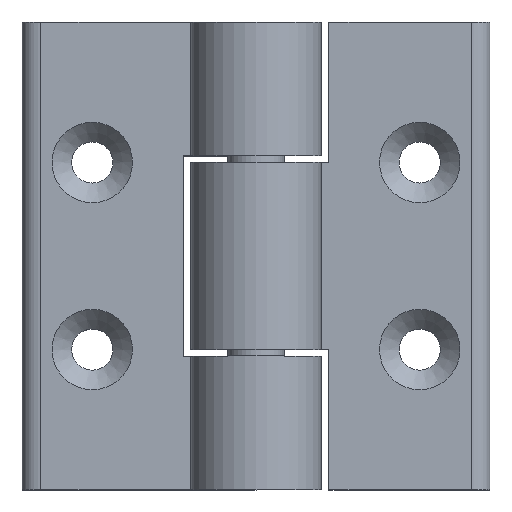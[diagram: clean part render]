
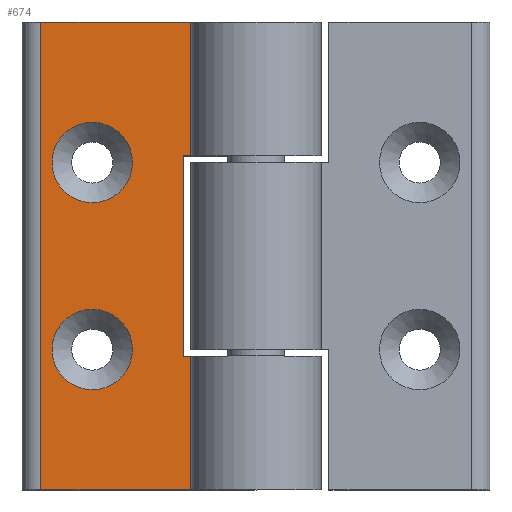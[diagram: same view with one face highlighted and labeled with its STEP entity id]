
A CAD part, top view. The second image highlights one B-rep face of the part: STEP entity #674.
In plain terms, the highlighted planar face has unit normal (0, 0, 1).
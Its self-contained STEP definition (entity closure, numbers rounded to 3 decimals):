
#83=LINE('',#1107,#136);
#84=LINE('',#1110,#137);
#85=LINE('',#1112,#138);
#86=LINE('',#1114,#139);
#87=LINE('',#1116,#140);
#88=LINE('',#1118,#141);
#89=LINE('',#1120,#142);
#90=LINE('',#1122,#143);
#136=VECTOR('',#912,1000.);
#137=VECTOR('',#913,1000.);
#138=VECTOR('',#914,1000.);
#139=VECTOR('',#915,1000.);
#140=VECTOR('',#916,1000.);
#141=VECTOR('',#917,1000.);
#142=VECTOR('',#918,1000.);
#143=VECTOR('',#919,1000.);
#243=ORIENTED_EDGE('',*,*,#369,.T.);
#244=ORIENTED_EDGE('',*,*,#370,.T.);
#245=ORIENTED_EDGE('',*,*,#371,.F.);
#246=ORIENTED_EDGE('',*,*,#372,.F.);
#247=ORIENTED_EDGE('',*,*,#373,.F.);
#248=ORIENTED_EDGE('',*,*,#374,.F.);
#249=ORIENTED_EDGE('',*,*,#375,.F.);
#250=ORIENTED_EDGE('',*,*,#376,.T.);
#251=ORIENTED_EDGE('',*,*,#377,.T.);
#252=ORIENTED_EDGE('',*,*,#378,.F.);
#369=EDGE_CURVE('',#442,#442,#488,.T.);
#370=EDGE_CURVE('',#443,#443,#489,.T.);
#371=EDGE_CURVE('',#444,#445,#83,.T.);
#372=EDGE_CURVE('',#446,#444,#84,.T.);
#373=EDGE_CURVE('',#447,#446,#85,.T.);
#374=EDGE_CURVE('',#448,#447,#86,.T.);
#375=EDGE_CURVE('',#449,#448,#87,.T.);
#376=EDGE_CURVE('',#449,#450,#88,.T.);
#377=EDGE_CURVE('',#450,#451,#89,.T.);
#378=EDGE_CURVE('',#445,#451,#90,.T.);
#442=VERTEX_POINT('',#1104);
#443=VERTEX_POINT('',#1106);
#444=VERTEX_POINT('',#1108);
#445=VERTEX_POINT('',#1109);
#446=VERTEX_POINT('',#1111);
#447=VERTEX_POINT('',#1113);
#448=VERTEX_POINT('',#1115);
#449=VERTEX_POINT('',#1117);
#450=VERTEX_POINT('',#1119);
#451=VERTEX_POINT('',#1121);
#488=CIRCLE('',#769,4.3);
#489=CIRCLE('',#770,4.3);
#536=EDGE_LOOP('',(#243));
#537=EDGE_LOOP('',(#244));
#538=EDGE_LOOP('',(#245,#246,#247,#248,#249,#250,#251,#252));
#601=FACE_BOUND('',#536,.T.);
#602=FACE_BOUND('',#537,.T.);
#603=FACE_BOUND('',#538,.T.);
#644=PLANE('',#768);
#674=ADVANCED_FACE('',(#601,#602,#603),#644,.F.);
#768=AXIS2_PLACEMENT_3D('',#1102,#906,#907);
#769=AXIS2_PLACEMENT_3D('',#1103,#908,#909);
#770=AXIS2_PLACEMENT_3D('',#1105,#910,#911);
#906=DIRECTION('',(0.,0.,-1.));
#907=DIRECTION('',(-1.,0.,0.));
#908=DIRECTION('',(0.,0.,-1.));
#909=DIRECTION('',(-1.,0.,0.));
#910=DIRECTION('',(0.,0.,-1.));
#911=DIRECTION('',(-1.,0.,0.));
#912=DIRECTION('',(1.,0.,0.));
#913=DIRECTION('',(0.,-1.,0.));
#914=DIRECTION('',(-1.,0.,0.));
#915=DIRECTION('',(0.,-1.,0.));
#916=DIRECTION('',(1.,0.,0.));
#917=DIRECTION('',(0.,-1.,0.));
#918=DIRECTION('',(1.,0.,0.));
#919=DIRECTION('',(0.,-1.,0.));
#1102=CARTESIAN_POINT('',(-23.,25.,5.));
#1103=CARTESIAN_POINT('',(-17.5,-10.,5.));
#1104=CARTESIAN_POINT('',(-21.8,-10.,5.));
#1105=CARTESIAN_POINT('',(-17.5,10.,5.));
#1106=CARTESIAN_POINT('',(-21.8,10.,5.));
#1107=CARTESIAN_POINT('',(-23.,-10.7,5.));
#1108=CARTESIAN_POINT('',(-7.8,-10.7,5.));
#1109=CARTESIAN_POINT('',(-7.,-10.7,5.));
#1110=CARTESIAN_POINT('',(-7.8,25.,5.));
#1111=CARTESIAN_POINT('',(-7.8,10.7,5.));
#1112=CARTESIAN_POINT('',(-23.,10.7,5.));
#1113=CARTESIAN_POINT('',(-7.,10.7,5.));
#1114=CARTESIAN_POINT('',(-7.,25.,5.));
#1115=CARTESIAN_POINT('',(-7.,25.,5.));
#1116=CARTESIAN_POINT('',(-23.,25.,5.));
#1117=CARTESIAN_POINT('',(-23.,25.,5.));
#1118=CARTESIAN_POINT('',(-23.,25.,5.));
#1119=CARTESIAN_POINT('',(-23.,-25.,5.));
#1120=CARTESIAN_POINT('',(-23.,-25.,5.));
#1121=CARTESIAN_POINT('',(-7.,-25.,5.));
#1122=CARTESIAN_POINT('',(-7.,25.,5.));
